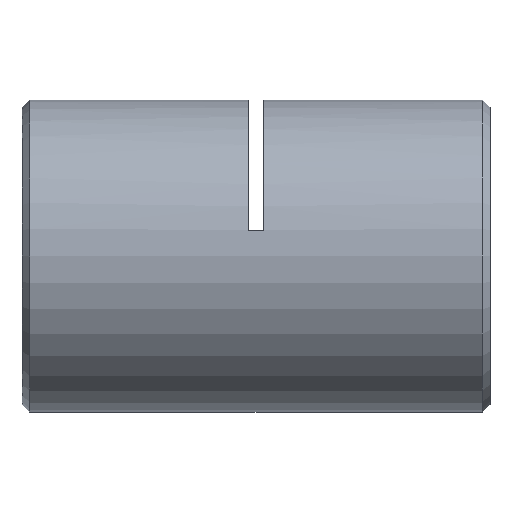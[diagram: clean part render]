
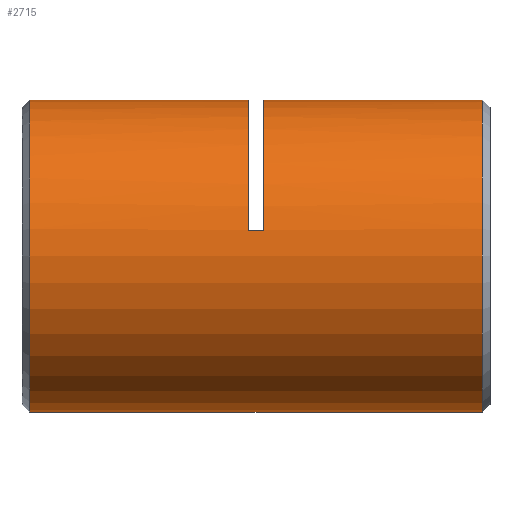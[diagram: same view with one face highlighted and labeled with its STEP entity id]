
A CAD part, left-side view. The second image highlights one B-rep face of the part: STEP entity #2715.
In plain terms, the highlighted cylindrical face has radius 10 mm (diameter 20 mm), a partial arc.
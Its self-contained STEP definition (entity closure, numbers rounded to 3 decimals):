
#56 = FACE_OUTER_BOUND ( 'NONE', #3196, .T. ) ;
#148 = ORIENTED_EDGE ( 'NONE', *, *, #2071, .F. ) ;
#286 = EDGE_CURVE ( 'NONE', #3999, #1391, #2103, .T. ) ;
#590 = DIRECTION ( 'NONE',  ( 0., 1., 0. ) ) ;
#664 = ORIENTED_EDGE ( 'NONE', *, *, #4694, .T. ) ;
#878 = CARTESIAN_POINT ( 'NONE',  ( 0., 0., 10. ) ) ;
#1000 = LINE ( 'NONE', #5714, #2921 ) ;
#1098 = CARTESIAN_POINT ( 'NONE',  ( 0., 0.75, 10. ) ) ;
#1183 = VECTOR ( 'NONE', #2667, 1000. ) ;
#1293 = CARTESIAN_POINT ( 'NONE',  ( 0., 14.75, 10. ) ) ;
#1391 = VERTEX_POINT ( 'NONE', #1684 ) ;
#1393 = CARTESIAN_POINT ( 'NONE',  ( -9.86, 15.75, 1.667 ) ) ;
#1395 = LINE ( 'NONE', #5060, #2685 ) ;
#1492 = CYLINDRICAL_SURFACE ( 'NONE', #5594, 10. ) ;
#1494 = DIRECTION ( 'NONE',  ( 0., 0., 1. ) ) ;
#1571 = CARTESIAN_POINT ( 'NONE',  ( -9.86, 15.25, 1.667 ) ) ;
#1684 = CARTESIAN_POINT ( 'NONE',  ( 0., 29.75, -10. ) ) ;
#1713 = CARTESIAN_POINT ( 'NONE',  ( 0., 14.75, 0. ) ) ;
#1788 = ORIENTED_EDGE ( 'NONE', *, *, #4299, .T. ) ;
#1869 = ORIENTED_EDGE ( 'NONE', *, *, #3847, .T. ) ;
#2037 = CARTESIAN_POINT ( 'NONE',  ( 0., 0., 0. ) ) ;
#2071 = EDGE_CURVE ( 'NONE', #5021, #1391, #1000, .T. ) ;
#2103 = CIRCLE ( 'NONE', #5554, 10. ) ;
#2121 = DIRECTION ( 'NONE',  ( 0., 1., 0. ) ) ;
#2147 = ORIENTED_EDGE ( 'NONE', *, *, #4899, .T. ) ;
#2237 = CARTESIAN_POINT ( 'NONE',  ( 0., 29.75, 0. ) ) ;
#2345 = AXIS2_PLACEMENT_3D ( 'NONE', #4186, #590, #1494 ) ;
#2347 = DIRECTION ( 'NONE',  ( 0., 1., 0. ) ) ;
#2348 = VERTEX_POINT ( 'NONE', #2970 ) ;
#2400 = DIRECTION ( 'NONE',  ( 0., 1., 0. ) ) ;
#2522 = VERTEX_POINT ( 'NONE', #1293 ) ;
#2570 = AXIS2_PLACEMENT_3D ( 'NONE', #1713, #2121, #4902 ) ;
#2667 = DIRECTION ( 'NONE',  ( 0., 1., 0. ) ) ;
#2685 = VECTOR ( 'NONE', #2400, 1000. ) ;
#2694 = CIRCLE ( 'NONE', #2570, 10. ) ;
#2715 = ADVANCED_FACE ( 'NONE', ( #56 ), #1492, .T. ) ;
#2860 = VERTEX_POINT ( 'NONE', #1393 ) ;
#2894 = DIRECTION ( 'NONE',  ( 0., 1., 0. ) ) ;
#2921 = VECTOR ( 'NONE', #2347, 1000. ) ;
#2970 = CARTESIAN_POINT ( 'NONE',  ( 0., 15.75, 10. ) ) ;
#3082 = DIRECTION ( 'NONE',  ( 0., -1., 0. ) ) ;
#3161 = CARTESIAN_POINT ( 'NONE',  ( -9.86, 14.75, 1.667 ) ) ;
#3196 = EDGE_LOOP ( 'NONE', ( #148, #1869, #2147, #3641, #1788, #4340, #664, #4306 ) ) ;
#3225 = VERTEX_POINT ( 'NONE', #3161 ) ;
#3468 = DIRECTION ( 'NONE',  ( 0., 0., 1. ) ) ;
#3509 = CARTESIAN_POINT ( 'NONE',  ( 0., 0.75, -10. ) ) ;
#3641 = ORIENTED_EDGE ( 'NONE', *, *, #4080, .F. ) ;
#3658 = AXIS2_PLACEMENT_3D ( 'NONE', #4630, #2894, #5522 ) ;
#3745 = EDGE_CURVE ( 'NONE', #2860, #2348, #4084, .T. ) ;
#3847 = EDGE_CURVE ( 'NONE', #5021, #5825, #4632, .T. ) ;
#3853 = DIRECTION ( 'NONE',  ( 0., 1., 0. ) ) ;
#3999 = VERTEX_POINT ( 'NONE', #4339 ) ;
#4076 = VECTOR ( 'NONE', #5208, 1000. ) ;
#4080 = EDGE_CURVE ( 'NONE', #3225, #2522, #2694, .T. ) ;
#4084 = CIRCLE ( 'NONE', #3658, 10. ) ;
#4138 = LINE ( 'NONE', #1571, #4076 ) ;
#4186 = CARTESIAN_POINT ( 'NONE',  ( 0., 0.75, 0. ) ) ;
#4299 = EDGE_CURVE ( 'NONE', #3225, #2860, #4138, .T. ) ;
#4306 = ORIENTED_EDGE ( 'NONE', *, *, #286, .T. ) ;
#4339 = CARTESIAN_POINT ( 'NONE',  ( 0., 29.75, 10. ) ) ;
#4340 = ORIENTED_EDGE ( 'NONE', *, *, #3745, .T. ) ;
#4388 = DIRECTION ( 'NONE',  ( 0., 0., -1. ) ) ;
#4622 = LINE ( 'NONE', #878, #1183 ) ;
#4630 = CARTESIAN_POINT ( 'NONE',  ( 0., 15.75, 0. ) ) ;
#4632 = CIRCLE ( 'NONE', #2345, 10. ) ;
#4694 = EDGE_CURVE ( 'NONE', #2348, #3999, #1395, .T. ) ;
#4899 = EDGE_CURVE ( 'NONE', #5825, #2522, #4622, .T. ) ;
#4902 = DIRECTION ( 'NONE',  ( 0., 0., 1. ) ) ;
#5021 = VERTEX_POINT ( 'NONE', #3509 ) ;
#5060 = CARTESIAN_POINT ( 'NONE',  ( 0., 0., 10. ) ) ;
#5208 = DIRECTION ( 'NONE',  ( 0., 1., 0. ) ) ;
#5522 = DIRECTION ( 'NONE',  ( 0., 0., 1. ) ) ;
#5554 = AXIS2_PLACEMENT_3D ( 'NONE', #2237, #3082, #4388 ) ;
#5594 = AXIS2_PLACEMENT_3D ( 'NONE', #2037, #3853, #3468 ) ;
#5714 = CARTESIAN_POINT ( 'NONE',  ( 0., 0., -10. ) ) ;
#5825 = VERTEX_POINT ( 'NONE', #1098 ) ;
